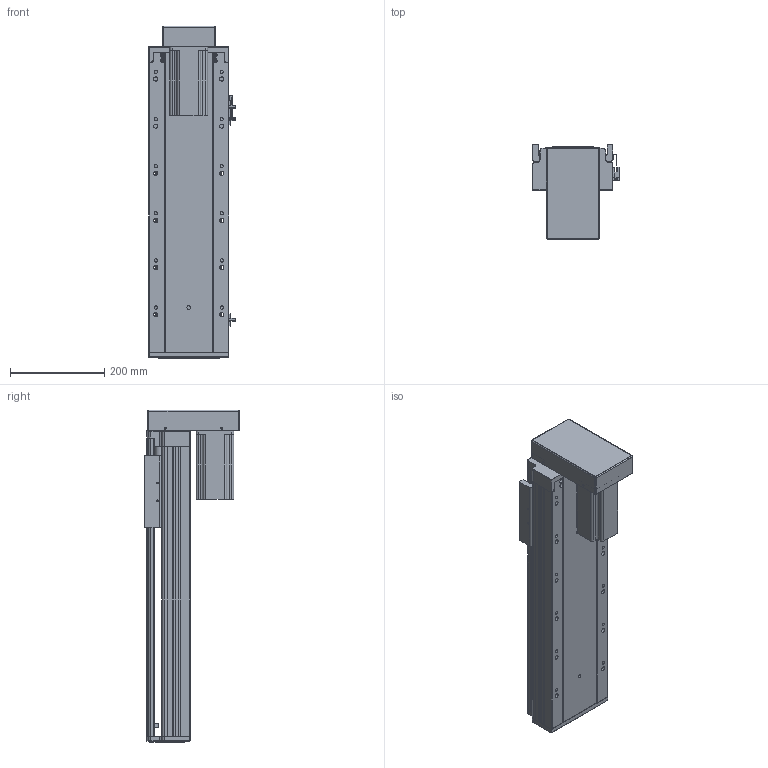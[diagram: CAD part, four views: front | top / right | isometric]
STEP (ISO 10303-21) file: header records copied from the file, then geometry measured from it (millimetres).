
FILE_DESCRIPTION (( 'STEP AP203' ), '1' );
FILE_NAME ('RY170-L2510-300-BK.SLDASM_400.step', '2021-03-12T08:57:45', ( '盈信电脑' ), ( '东莞市道滘镇水果街19号' ), 'SwSTEP 2.0', 'SolidWorks 2012', '' );
FILE_SCHEMA (( 'CONFIG_CONTROL_DESIGN' ));
Length unit declared in the file: millimetre
Products named in the file (14): 滅袉蝶18-20; RY170转折电机端支撑座(7004); 滅袉蝶18-10; 覜茼ん672; RY170綴裔啣; RY170外置感应片(200共用）; RY170-300倰第裔啣-BK_400; RY170-300倰第菁釱-BK_400; 改造-RY170铝滑块25丝杆螺母; RY170-狟殏萇儂假蚾啣; RY170-狟殏750W萇儂傷; 怢湛750W萇儂ㄗ80遺ㄘ; RY170狟殏萇儂欶; RY170-L2510-300-BK.SLDASM_400
Assembly tree (15 placements, depth 3):
  RY170-L2510-300-BK.SLDASM_400
    RY170-300倰第菁釱-BK_400
    改造-RY170铝滑块25丝杆螺母
    RY170-300倰第裔啣-BK_400
    RY170綴裔啣
    覜茼ん672  x3
    RY170外置感应片(200共用）
    滅袉蝶18-20
    滅袉蝶18-10
    RY170转折电机端支撑座(7004)
    RY170-狟殏750W萇儂傷
      RY170-狟殏萇儂假蚾啣
      RY170狟殏萇儂欶
      怢湛750W萇儂ㄗ80遺ㄘ
Bounding box: 183.7 x 200.8 x 704.5 mm (x, y, z)
Volume: 4687355.4 mm3; surface area: 1351266.9 mm2
Topology: 14 solids, 14 shells, 2056 faces, 5881 edges, 3794 vertices
Faces by surface type: plane 1078, cylinder 813, cone 146, bspline 19
Entity records: 66098 total; most frequent: CARTESIAN_POINT 15658, ORIENTED_EDGE 10562, DIRECTION 9755, EDGE_CURVE 5281, VERTEX_POINT 3474, VECTOR 3337, LINE 3337, AXIS2_PLACEMENT_3D 3209
